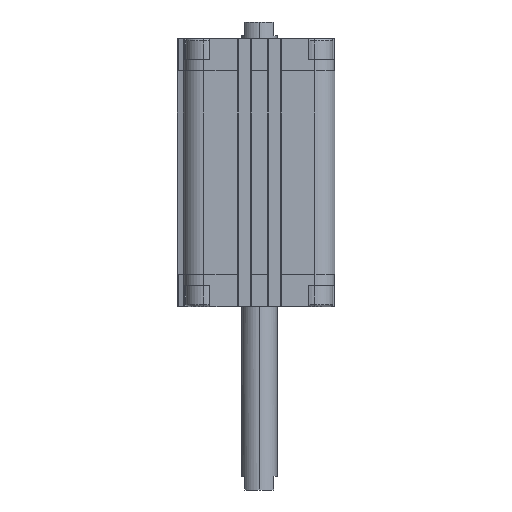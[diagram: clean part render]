
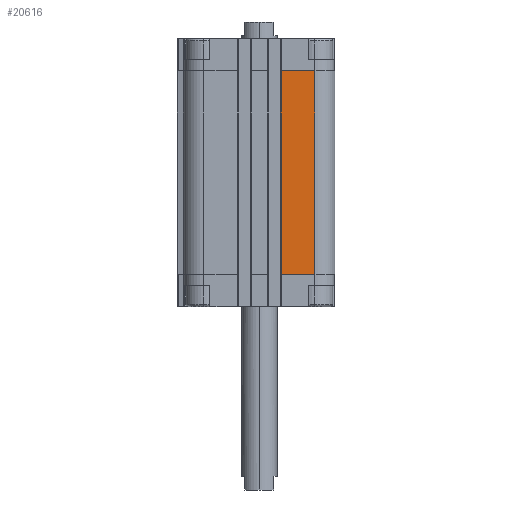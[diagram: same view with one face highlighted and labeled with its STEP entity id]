
A CAD part, left-side view. The second image highlights one B-rep face of the part: STEP entity #20616.
In plain terms, the highlighted planar face has unit normal (-1, 0, 0).
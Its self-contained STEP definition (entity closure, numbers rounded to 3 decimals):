
#128 = LINE ( 'NONE', #7312, #4801 ) ;
#847 = VERTEX_POINT ( 'NONE', #17392 ) ;
#1130 = DIRECTION ( 'NONE',  ( 0., 0., 1. ) ) ;
#1602 = LINE ( 'NONE', #18862, #15722 ) ;
#1946 = VECTOR ( 'NONE', #2028, 1000. ) ;
#2028 = DIRECTION ( 'NONE',  ( 0., 0., 1. ) ) ;
#3353 = CARTESIAN_POINT ( 'NONE',  ( -34., -9.85, -106. ) ) ;
#3783 = EDGE_CURVE ( 'NONE', #9861, #9813, #7508, .T. ) ;
#4546 = LINE ( 'NONE', #7638, #16159 ) ;
#4801 = VECTOR ( 'NONE', #5355, 1000. ) ;
#5001 = DIRECTION ( 'NONE',  ( 0., -1., 0. ) ) ;
#5355 = DIRECTION ( 'NONE',  ( 0., -1., 0. ) ) ;
#5405 = ORIENTED_EDGE ( 'NONE', *, *, #3783, .T. ) ;
#7195 = EDGE_CURVE ( 'NONE', #847, #15123, #4546, .T. ) ;
#7312 = CARTESIAN_POINT ( 'NONE',  ( -34., -9.85, -14.5 ) ) ;
#7508 = LINE ( 'NONE', #11059, #1946 ) ;
#7638 = CARTESIAN_POINT ( 'NONE',  ( -34., -9.85, -106. ) ) ;
#8589 = ORIENTED_EDGE ( 'NONE', *, *, #12792, .F. ) ;
#8723 = DIRECTION ( 'NONE',  ( 0., -1., 0. ) ) ;
#8886 = ORIENTED_EDGE ( 'NONE', *, *, #7195, .F. ) ;
#9490 = AXIS2_PLACEMENT_3D ( 'NONE', #3353, #20853, #8723 ) ;
#9813 = VERTEX_POINT ( 'NONE', #10498 ) ;
#9861 = VERTEX_POINT ( 'NONE', #12224 ) ;
#10324 = CARTESIAN_POINT ( 'NONE',  ( -34., -9.85, -14.5 ) ) ;
#10498 = CARTESIAN_POINT ( 'NONE',  ( -34., -25., -14.5 ) ) ;
#10834 = ORIENTED_EDGE ( 'NONE', *, *, #21309, .T. ) ;
#11059 = CARTESIAN_POINT ( 'NONE',  ( -34., -25., -106. ) ) ;
#12044 = FACE_OUTER_BOUND ( 'NONE', #18211, .T. ) ;
#12224 = CARTESIAN_POINT ( 'NONE',  ( -34., -25., -106. ) ) ;
#12792 = EDGE_CURVE ( 'NONE', #15123, #9813, #128, .T. ) ;
#15123 = VERTEX_POINT ( 'NONE', #10324 ) ;
#15722 = VECTOR ( 'NONE', #5001, 1000. ) ;
#16159 = VECTOR ( 'NONE', #1130, 1000. ) ;
#17392 = CARTESIAN_POINT ( 'NONE',  ( -34., -9.85, -106. ) ) ;
#18211 = EDGE_LOOP ( 'NONE', ( #8589, #8886, #10834, #5405 ) ) ;
#18862 = CARTESIAN_POINT ( 'NONE',  ( -34., -9.85, -106. ) ) ;
#19031 = PLANE ( 'NONE',  #9490 ) ;
#20616 = ADVANCED_FACE ( 'NONE', ( #12044 ), #19031, .T. ) ;
#20853 = DIRECTION ( 'NONE',  ( -1., 0., 0. ) ) ;
#21309 = EDGE_CURVE ( 'NONE', #847, #9861, #1602, .T. ) ;
